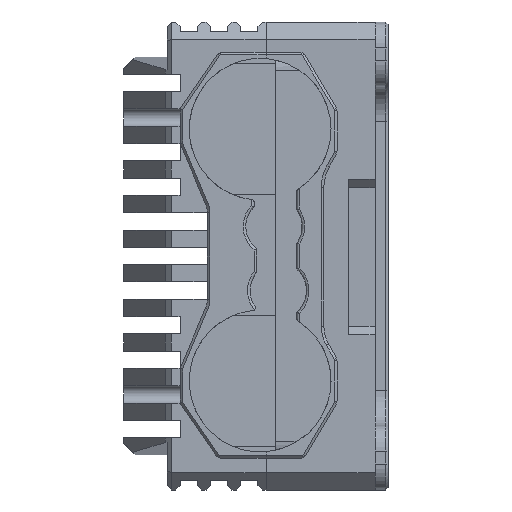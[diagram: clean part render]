
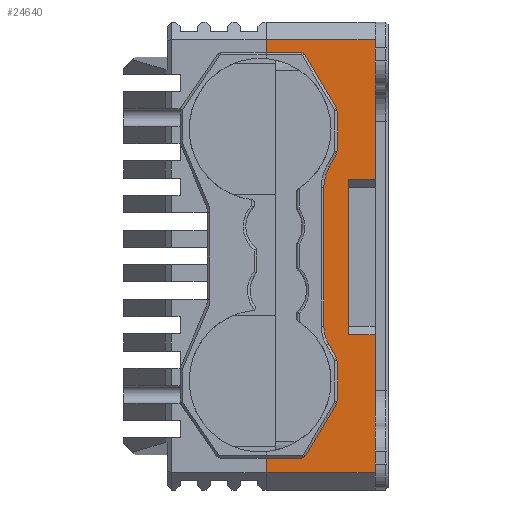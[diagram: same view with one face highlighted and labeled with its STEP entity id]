
A CAD part, left-side view. The second image highlights one B-rep face of the part: STEP entity #24640.
In plain terms, the highlighted planar face has unit normal (-1, 0, 0) as drawn and (1, 0, 0) by its records, which use the part's own axes.
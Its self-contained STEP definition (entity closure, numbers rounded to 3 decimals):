
#1607=FACE_OUTER_BOUND('',#3062,.T.);
#3062=EDGE_LOOP('',(#21385,#21386,#21387,#21388,#21389,#21390,#21391,#21392,
#21393,#21394,#21395,#21396,#21397,#21398,#21399,#21400,#21401,#21402,#21403,
#21404,#21405,#21406,#21407,#21408,#21409,#21410));
#3469=CIRCLE('',#26193,4.87);
#3470=CIRCLE('',#26194,4.1);
#6213=LINE('',#38782,#9306);
#6218=LINE('',#38791,#9311);
#6269=LINE('',#38922,#9362);
#6277=LINE('',#38938,#9370);
#6285=LINE('',#38954,#9378);
#6291=LINE('',#38967,#9384);
#6307=LINE('',#39007,#9400);
#6317=LINE('',#39025,#9410);
#6320=LINE('',#39029,#9413);
#6322=LINE('',#39033,#9415);
#6336=LINE('',#39067,#9429);
#6342=LINE('',#39083,#9435);
#6354=LINE('',#39113,#9447);
#6399=LINE('',#39216,#9492);
#6405=LINE('',#39227,#9498);
#6406=LINE('',#39229,#9499);
#6407=LINE('',#39230,#9500);
#6408=LINE('',#39231,#9501);
#6409=LINE('',#39233,#9502);
#6410=LINE('',#39237,#9503);
#6411=LINE('',#39240,#9504);
#6412=LINE('',#39241,#9505);
#6413=LINE('',#39242,#9506);
#6414=LINE('',#39243,#9507);
#9306=VECTOR('',#31563,10.);
#9311=VECTOR('',#31568,10.);
#9362=VECTOR('',#31687,10.);
#9370=VECTOR('',#31701,10.);
#9378=VECTOR('',#31715,10.);
#9384=VECTOR('',#31725,10.);
#9400=VECTOR('',#31763,10.);
#9410=VECTOR('',#31781,10.);
#9413=VECTOR('',#31786,10.);
#9415=VECTOR('',#31790,10.);
#9429=VECTOR('',#31814,10.);
#9435=VECTOR('',#31828,10.);
#9447=VECTOR('',#31850,10.);
#9492=VECTOR('',#31965,10.);
#9498=VECTOR('',#31975,10.);
#9499=VECTOR('',#31978,10.);
#9500=VECTOR('',#31979,10.);
#9501=VECTOR('',#31980,10.);
#9502=VECTOR('',#31981,10.);
#9503=VECTOR('',#31984,10.);
#9504=VECTOR('',#31987,10.);
#9505=VECTOR('',#31988,10.);
#9506=VECTOR('',#31989,10.);
#9507=VECTOR('',#31990,10.);
#11656=VERTEX_POINT('',#38779);
#11657=VERTEX_POINT('',#38781);
#11660=VERTEX_POINT('',#38788);
#11661=VERTEX_POINT('',#38790);
#11706=VERTEX_POINT('',#38920);
#11707=VERTEX_POINT('',#38921);
#11711=VERTEX_POINT('',#38936);
#11712=VERTEX_POINT('',#38937);
#11716=VERTEX_POINT('',#38952);
#11717=VERTEX_POINT('',#38953);
#11721=VERTEX_POINT('',#38965);
#11722=VERTEX_POINT('',#38966);
#11734=VERTEX_POINT('',#39005);
#11735=VERTEX_POINT('',#39006);
#11738=VERTEX_POINT('',#39023);
#11739=VERTEX_POINT('',#39024);
#11740=VERTEX_POINT('',#39031);
#11755=VERTEX_POINT('',#39065);
#11760=VERTEX_POINT('',#39080);
#11761=VERTEX_POINT('',#39082);
#11797=VERTEX_POINT('',#39215);
#11800=VERTEX_POINT('',#39225);
#11801=VERTEX_POINT('',#39232);
#11802=VERTEX_POINT('',#39234);
#11803=VERTEX_POINT('',#39236);
#11804=VERTEX_POINT('',#39238);
#14841=EDGE_CURVE('',#11657,#11656,#6213,.T.);
#14846=EDGE_CURVE('',#11661,#11660,#6218,.T.);
#14911=EDGE_CURVE('',#11706,#11707,#6269,.F.);
#14919=EDGE_CURVE('',#11711,#11712,#6277,.F.);
#14927=EDGE_CURVE('',#11716,#11717,#6285,.F.);
#14933=EDGE_CURVE('',#11721,#11722,#6291,.F.);
#14953=EDGE_CURVE('',#11734,#11735,#6307,.F.);
#14963=EDGE_CURVE('',#11738,#11739,#6317,.F.);
#14966=EDGE_CURVE('',#11717,#11734,#6320,.T.);
#14968=EDGE_CURVE('',#11740,#11716,#6322,.T.);
#14986=EDGE_CURVE('',#11755,#11740,#6336,.T.);
#14994=EDGE_CURVE('',#11760,#11761,#6342,.T.);
#15010=EDGE_CURVE('',#11739,#11760,#6354,.T.);
#15062=EDGE_CURVE('',#11657,#11797,#6399,.T.);
#15068=EDGE_CURVE('',#11800,#11660,#6405,.T.);
#15069=EDGE_CURVE('',#11761,#11656,#6406,.T.);
#15070=EDGE_CURVE('',#11707,#11738,#6407,.T.);
#15071=EDGE_CURVE('',#11706,#11712,#6408,.T.);
#15072=EDGE_CURVE('',#11711,#11801,#6409,.T.);
#15073=EDGE_CURVE('',#11801,#11802,#3469,.T.);
#15074=EDGE_CURVE('',#11803,#11802,#6410,.T.);
#15075=EDGE_CURVE('',#11803,#11804,#3470,.T.);
#15076=EDGE_CURVE('',#11722,#11804,#6411,.T.);
#15077=EDGE_CURVE('',#11735,#11721,#6412,.T.);
#15078=EDGE_CURVE('',#11661,#11755,#6413,.T.);
#15079=EDGE_CURVE('',#11800,#11797,#6414,.T.);
#21385=ORIENTED_EDGE('',*,*,#15062,.F.);
#21386=ORIENTED_EDGE('',*,*,#14841,.T.);
#21387=ORIENTED_EDGE('',*,*,#15069,.F.);
#21388=ORIENTED_EDGE('',*,*,#14994,.F.);
#21389=ORIENTED_EDGE('',*,*,#15010,.F.);
#21390=ORIENTED_EDGE('',*,*,#14963,.F.);
#21391=ORIENTED_EDGE('',*,*,#15070,.F.);
#21392=ORIENTED_EDGE('',*,*,#14911,.F.);
#21393=ORIENTED_EDGE('',*,*,#15071,.T.);
#21394=ORIENTED_EDGE('',*,*,#14919,.F.);
#21395=ORIENTED_EDGE('',*,*,#15072,.T.);
#21396=ORIENTED_EDGE('',*,*,#15073,.T.);
#21397=ORIENTED_EDGE('',*,*,#15074,.F.);
#21398=ORIENTED_EDGE('',*,*,#15075,.T.);
#21399=ORIENTED_EDGE('',*,*,#15076,.F.);
#21400=ORIENTED_EDGE('',*,*,#14933,.F.);
#21401=ORIENTED_EDGE('',*,*,#15077,.F.);
#21402=ORIENTED_EDGE('',*,*,#14953,.F.);
#21403=ORIENTED_EDGE('',*,*,#14966,.F.);
#21404=ORIENTED_EDGE('',*,*,#14927,.F.);
#21405=ORIENTED_EDGE('',*,*,#14968,.F.);
#21406=ORIENTED_EDGE('',*,*,#14986,.F.);
#21407=ORIENTED_EDGE('',*,*,#15078,.F.);
#21408=ORIENTED_EDGE('',*,*,#14846,.T.);
#21409=ORIENTED_EDGE('',*,*,#15068,.F.);
#21410=ORIENTED_EDGE('',*,*,#15079,.T.);
#23410=PLANE('',#26192);
#24640=ADVANCED_FACE('',(#1607),#23410,.T.);
#26192=AXIS2_PLACEMENT_3D('',#39228,#31976,#31977);
#26193=AXIS2_PLACEMENT_3D('',#39235,#31982,#31983);
#26194=AXIS2_PLACEMENT_3D('',#39239,#31985,#31986);
#31563=DIRECTION('',(0.,0.,1.));
#31568=DIRECTION('',(0.,0.,1.));
#31687=DIRECTION('',(0.,0.264,-0.964));
#31701=DIRECTION('',(0.,-0.252,-0.968));
#31715=DIRECTION('',(0.,-0.869,-0.495));
#31725=DIRECTION('',(0.,0.252,-0.968));
#31763=DIRECTION('',(0.,-0.264,-0.964));
#31781=DIRECTION('',(0.,0.869,-0.495));
#31786=DIRECTION('',(0.,0.51,0.86));
#31790=DIRECTION('',(0.,1.,0.));
#31814=DIRECTION('',(0.,0.,1.));
#31828=DIRECTION('',(0.,0.,1.));
#31850=DIRECTION('',(0.,-1.,0.));
#31965=DIRECTION('',(0.,-1.,0.));
#31975=DIRECTION('',(0.,1.,0.));
#31976=DIRECTION('center_axis',(1.,0.,0.));
#31977=DIRECTION('ref_axis',(0.,0.,-1.));
#31978=DIRECTION('',(0.,1.,0.));
#31979=DIRECTION('',(0.,-0.51,0.86));
#31980=DIRECTION('',(0.,0.,-1.));
#31981=DIRECTION('',(0.,-0.488,-0.873));
#31982=DIRECTION('center_axis',(1.,0.,0.));
#31983=DIRECTION('ref_axis',(0.,-0.968,0.252));
#31984=DIRECTION('',(0.,0.,1.));
#31985=DIRECTION('center_axis',(1.,0.,0.));
#31986=DIRECTION('ref_axis',(0.,-0.968,-0.252));
#31987=DIRECTION('',(0.,-0.488,0.873));
#31988=DIRECTION('',(0.,0.,1.));
#31989=DIRECTION('',(0.,-1.,0.));
#31990=DIRECTION('',(0.,0.,1.));
#38779=CARTESIAN_POINT('',(46.35,15.95,25.05));
#38781=CARTESIAN_POINT('',(46.35,15.95,8.9));
#38782=CARTESIAN_POINT('',(46.35,15.95,12.975));
#38788=CARTESIAN_POINT('',(46.35,15.95,-9.1));
#38790=CARTESIAN_POINT('',(46.35,15.95,-25.05));
#38791=CARTESIAN_POINT('',(46.35,15.95,0.238));
#38920=CARTESIAN_POINT('',(46.35,11.542,16.7));
#38921=CARTESIAN_POINT('',(46.35,11.389,17.258));
#38922=CARTESIAN_POINT('',(46.35,10.081,22.026));
#38936=CARTESIAN_POINT('',(46.35,11.395,11.638));
#38937=CARTESIAN_POINT('',(46.35,11.542,12.2));
#38938=CARTESIAN_POINT('',(46.35,12.962,17.651));
#38952=CARTESIAN_POINT('',(46.35,7.465,-23.37));
#38953=CARTESIAN_POINT('',(46.35,7.918,-23.112));
#38954=CARTESIAN_POINT('',(46.35,17.103,-17.88));
#38965=CARTESIAN_POINT('',(46.35,11.542,-12.2));
#38966=CARTESIAN_POINT('',(46.35,11.395,-11.638));
#38967=CARTESIAN_POINT('',(46.35,6.631,6.65));
#39005=CARTESIAN_POINT('',(46.35,11.389,-17.258));
#39006=CARTESIAN_POINT('',(46.35,11.542,-16.7));
#39007=CARTESIAN_POINT('',(46.35,16.698,2.11));
#39023=CARTESIAN_POINT('',(46.35,7.799,23.312));
#39024=CARTESIAN_POINT('',(46.35,7.346,23.57));
#39025=CARTESIAN_POINT('',(46.35,5.911,24.388));
#39029=CARTESIAN_POINT('',(46.35,11.542,-17.));
#39031=CARTESIAN_POINT('',(46.35,3.35,-23.37));
#39033=CARTESIAN_POINT('',(46.35,-2.248,-23.37));
#39065=CARTESIAN_POINT('',(46.35,3.35,-25.05));
#39067=CARTESIAN_POINT('',(46.35,3.35,-23.059));
#39080=CARTESIAN_POINT('',(46.35,3.35,23.57));
#39082=CARTESIAN_POINT('',(46.35,3.35,25.05));
#39083=CARTESIAN_POINT('',(46.35,3.35,0.536));
#39113=CARTESIAN_POINT('',(46.35,-2.111,23.57));
#39215=CARTESIAN_POINT('',(46.35,12.85,8.9));
#39216=CARTESIAN_POINT('',(46.35,8.475,8.9));
#39225=CARTESIAN_POINT('',(46.35,12.85,-9.1));
#39227=CARTESIAN_POINT('',(46.35,9.625,-9.1));
#39228=CARTESIAN_POINT('Origin',(46.35,4.6,25.95));
#39229=CARTESIAN_POINT('',(46.35,2.875,25.05));
#39230=CARTESIAN_POINT('',(46.35,11.542,17.));
#39231=CARTESIAN_POINT('',(46.35,11.542,19.025));
#39232=CARTESIAN_POINT('',(46.35,10.634,10.277));
#39233=CARTESIAN_POINT('',(46.35,13.707,15.774));
#39234=CARTESIAN_POINT('',(46.35,10.015,7.9));
#39235=CARTESIAN_POINT('Origin',(46.35,14.885,7.9));
#39236=CARTESIAN_POINT('',(46.35,10.015,-8.101));
#39237=CARTESIAN_POINT('',(46.35,10.015,8.925));
#39238=CARTESIAN_POINT('',(46.35,10.536,-10.101));
#39239=CARTESIAN_POINT('Origin',(46.35,14.115,-8.101));
#39240=CARTESIAN_POINT('',(46.35,8.782,-6.963));
#39241=CARTESIAN_POINT('',(46.35,11.542,-17.));
#39242=CARTESIAN_POINT('',(46.35,2.875,-25.05));
#39243=CARTESIAN_POINT('',(46.35,12.85,-14.793));
